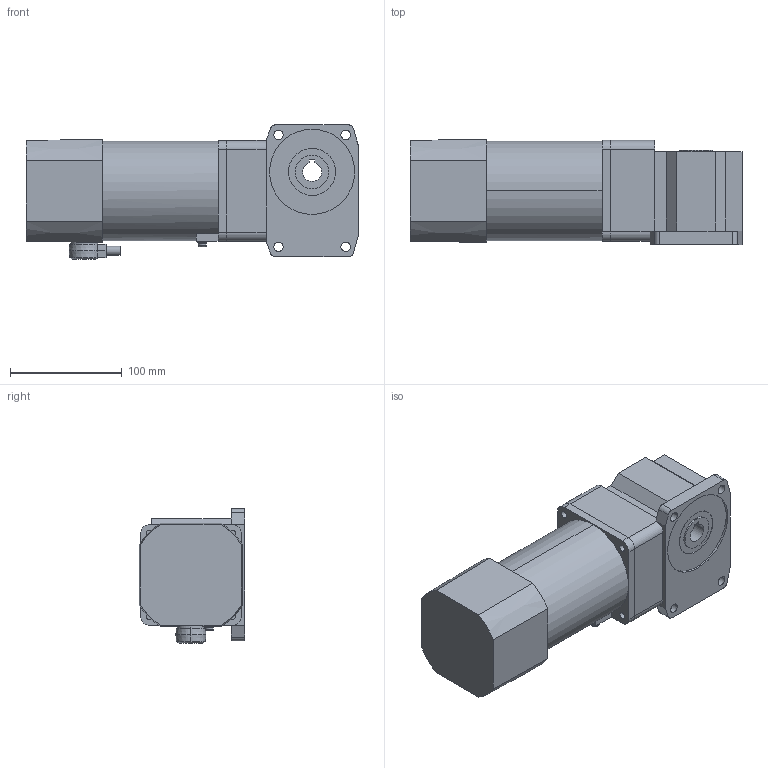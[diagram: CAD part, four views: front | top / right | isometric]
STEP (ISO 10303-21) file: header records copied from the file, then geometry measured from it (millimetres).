
FILE_DESCRIPTION(('starvars output'),'2;1');
FILE_NAME('5RK90GE-CW2ME _ 5GE100RH.stp','14:18:38 2015/05/11',( 'Thomas Industrial Network Germany GmbH'),( 'Thomas Industrial Network Germany GmbH'),'unknown preprocess','ACIS' ,'unknown authorization');
FILE_SCHEMA(('AUTOMOTIVE_DESIGN_CC2 {UNKNOWN IMPLEMENTATION LEVEL}'));
Length unit declared in the file: millimetre
Products named in the file (1): PRODUCT_ID_657
Bounding box: 296.5 x 94 x 120 mm (x, y, z)
Volume: 2099185.3 mm3; surface area: 127383 mm2
Topology: 1 solids, 1 shells, 154 faces, 384 edges, 252 vertices
Faces by surface type: plane 80, cylinder 62, cone 10, torus 2
Entity records: 5413 total; most frequent: ORIENTED_EDGE 768, CARTESIAN_POINT 708, DIRECTION 622, EDGE_CURVE 384, VERTEX_POINT 252, VECTOR 212, LINE 212, AXIS2_PLACEMENT_3D 205
